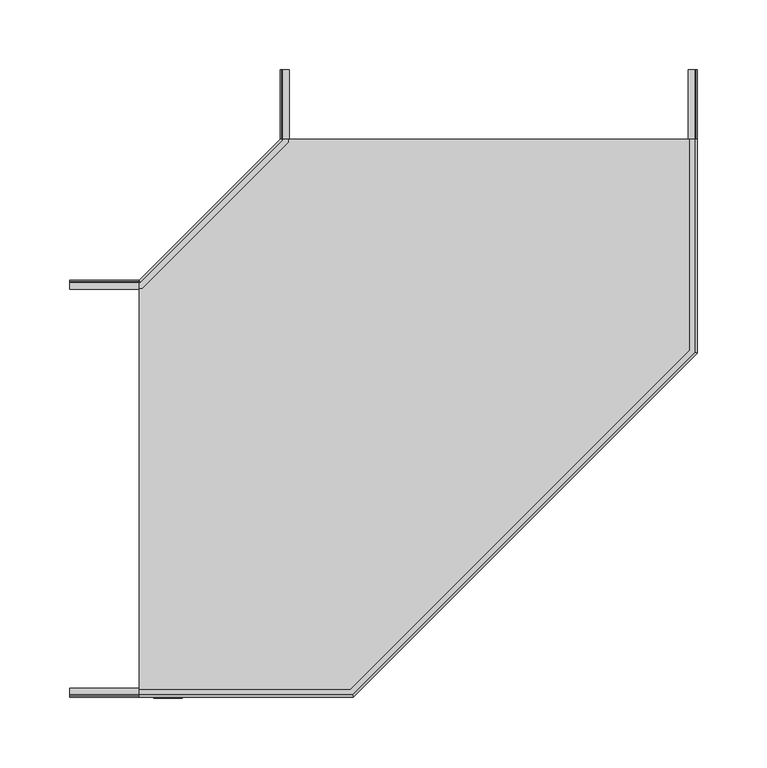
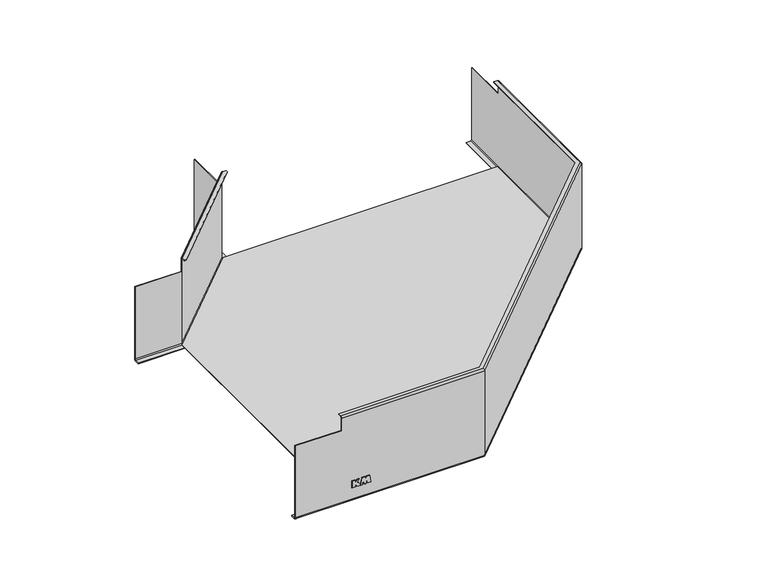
"""IFC4 building model written with IfcOpenShell, lengths in millimetres: cable carrier fitting geometry, КМ Профиль Угол горизонтальный GL90 : Угол горизонтальный GL90."""

import ifcopenshell
import ifcopenshell.guid

model = None  # the IFC model being written
_history = None  # IfcOwnerHistory: only IFC2X3 demands one
_inside = {}  # id of a spatial element -> (the spatial element, [elements in it])
_under = {}  # id of a project, library or spatial element -> (it, [spatial elements below it])
_declared = {}  # id of a project -> (the project, [libraries it declares])
_typed = {}  # id of a type object -> (the type object, [elements of that type])
_made_of = {}  # id of a material, layer set ... -> (it, [elements and type objects made of it])


def new_model(schema):
    """Start an empty IFC model of exactly this schema.

    Asked for "IFC4X3", IfcOpenShell would pick the latest addendum, in which some entities
    have other attributes; the version numbers below select the first issue.
    IFC2X3 requires an IfcOwnerHistory on every rooted entity: one is made here for all.
    """
    global model, _history
    if schema == "IFC4X3":
        model = ifcopenshell.file(schema_version=(4, 3, 0, 0))
    else:
        model = ifcopenshell.file(schema=schema)
    _inside.clear()
    _under.clear()
    _declared.clear()
    _typed.clear()
    _made_of.clear()
    _history = None
    if model.schema == "IFC2X3":
        org = make("IfcOrganization", Name="unknown")
        user = make(
            "IfcPersonAndOrganization",
            ThePerson=make("IfcPerson", FamilyName="unknown"),
            TheOrganization=org,
        )
        app = make(
            "IfcApplication",
            ApplicationDeveloper=org,
            Version="unknown",
            ApplicationFullName="unknown",
            ApplicationIdentifier="unknown",
        )
        _history = make(
            "IfcOwnerHistory",
            OwningUser=user,
            OwningApplication=app,
            ChangeAction="ADDED",
            CreationDate=0,
        )
    return model


def make(cls, **values):
    """One entity of the class cls with the attributes given. An attribute that is None is left unset."""
    return model.create_entity(
        cls, **{name: value for name, value in values.items() if value is not None}
    )


def rooted(cls, **values):
    """An entity with a GlobalId (a new one), such as an element, a storey or a relation."""
    return make(cls, GlobalId=ifcopenshell.guid.new(), OwnerHistory=_history, **values)


def si_unit(unit_type, name, prefix=None):
    """IfcSIUnit, for example si_unit("LENGTHUNIT", "METRE", prefix="MILLI")."""
    return make("IfcSIUnit", UnitType=unit_type, Prefix=prefix, Name=name)


def assignment(units):
    """IfcUnitAssignment: the units of a project."""
    return None if units is None else make("IfcUnitAssignment", Units=units)


def point(xyz):
    """IfcCartesianPoint."""
    return None if xyz is None else make("IfcCartesianPoint", Coordinates=xyz)


def direction(xyz):
    """IfcDirection."""
    return None if xyz is None else make("IfcDirection", DirectionRatios=xyz)


def frame(location, z_axis=None, x_axis=None):
    """IfcAxis2Placement3D, a coordinate frame: its origin and axes. An axis left out is left unset."""
    return make(
        "IfcAxis2Placement3D",
        Location=point(location),
        Axis=direction(z_axis),
        RefDirection=direction(x_axis),
    )


def origin():
    """The frame at (0, 0, 0) with its axes left unset."""
    return frame((0.0, 0.0, 0.0))


def place(relative_to, where):
    """IfcLocalPlacement: puts the frame where relative to a parent placement (None: the world)."""
    return make(
        "IfcLocalPlacement", PlacementRelTo=relative_to, RelativePlacement=where
    )


def context(
    kind, dimensions, precision=None, world=None, true_north=None, identifier=None
):
    """IfcGeometricRepresentationContext, for example the 3D "Model" context."""
    return make(
        "IfcGeometricRepresentationContext",
        ContextIdentifier=identifier,
        ContextType=kind,
        CoordinateSpaceDimension=dimensions,
        Precision=precision,
        WorldCoordinateSystem=world,
        TrueNorth=true_north,
    )


def project(units=None, contexts=None):
    """IfcProject with its units and contexts."""
    return rooted(
        "IfcProject",
        Name="project",
        RepresentationContexts=contexts,
        UnitsInContext=assignment(units),
    )


def spatial(cls, under=None, at=None, **own):
    """A site, building, storey or space (cls), placed at a placement, below another one or the project."""
    s = rooted(cls, ObjectPlacement=at, **own)
    if under is not None:
        _under.setdefault(under.id(), (under, []))[1].append(s)
    return s


def polyline(points):
    """IfcPolyline through the points."""
    return make("IfcPolyline", Points=[point(p) for p in points])


def circle_curve(where, radius):
    """IfcCircle in the frame where."""
    return make("IfcCircle", Position=where, Radius=radius)


def ellipse_curve(where, semi_axis1, semi_axis2):
    """IfcEllipse in the frame where."""
    return make(
        "IfcEllipse", Position=where, SemiAxis1=semi_axis1, SemiAxis2=semi_axis2
    )


def outline(outer, holes=None, kind="AREA"):
    """IfcArbitraryClosedProfileDef: a profile drawn as a closed curve; with holes, ...WithVoids."""
    if holes is None:
        return make("IfcArbitraryClosedProfileDef", ProfileType=kind, OuterCurve=outer)
    return make(
        "IfcArbitraryProfileDefWithVoids",
        ProfileType=kind,
        OuterCurve=outer,
        InnerCurves=holes,
    )


def extrude(swept, where, along, depth):
    """IfcExtrudedAreaSolid: the profile swept, set in the frame where, extruded along a direction by depth."""
    return make(
        "IfcExtrudedAreaSolid",
        SweptArea=swept,
        Position=where,
        ExtrudedDirection=direction(along),
        Depth=depth,
    )


def shape(context_of_items, identifier, shape_type, items):
    """IfcShapeRepresentation: the items that make up one representation, for example the "Body"."""
    return make(
        "IfcShapeRepresentation",
        ContextOfItems=context_of_items,
        RepresentationIdentifier=identifier,
        RepresentationType=shape_type,
        Items=items,
    )


def source(mapping_origin, context_of_items, identifier, shape_type, items):
    """IfcRepresentationMap: a shape defined once, which mapped items show again and again."""
    return make(
        "IfcRepresentationMap",
        MappingOrigin=mapping_origin,
        MappedRepresentation=shape(context_of_items, identifier, shape_type, items),
    )


def transform(
    local_origin,
    x_axis=None,
    y_axis=None,
    z_axis=None,
    scale=None,
    scale2=None,
    scale3=None,
    uniform=True,
):
    """IfcCartesianTransformationOperator3D, or its non-uniform kind. x_axis, y_axis, z_axis: its Axis1, 2, 3."""
    if uniform:
        return make(
            "IfcCartesianTransformationOperator3D",
            Axis1=direction(x_axis),
            Axis2=direction(y_axis),
            LocalOrigin=point(local_origin),
            Scale=scale,
            Axis3=direction(z_axis),
        )
    return make(
        "IfcCartesianTransformationOperator3DnonUniform",
        Axis1=direction(x_axis),
        Axis2=direction(y_axis),
        LocalOrigin=point(local_origin),
        Scale=scale,
        Axis3=direction(z_axis),
        Scale2=scale2,
        Scale3=scale3,
    )


def mapped(mapping_source, mapping_target):
    """IfcMappedItem: shows the shape of a source again, moved by a transform."""
    return make(
        "IfcMappedItem", MappingSource=mapping_source, MappingTarget=mapping_target
    )


def made_of(thing, what):
    """Note that an element or type object is made of a material, layer set ...; save() writes the relation."""
    if what is not None:
        _made_of.setdefault(what.id(), (what, []))[1].append(thing)
    return thing


def element(
    cls,
    number,
    at=None,
    inside=None,
    cuts=None,
    type_object=None,
    material=None,
    context=None,
    identifier="Body",
    shape_type=None,
    held_by="IfcProductDefinitionShape",
    body=None,
    shapes=None,
    **own,
):
    """One element of the class cls, such as IfcWall. Its Tag is "e" and its number.

    at: its placement. inside: the storey or other place that contains it. cuts: it is an
    opening in that element (IfcRelVoidsElement). A single representation is given by context,
    identifier, shape_type and body (its items); several are given by shapes. held_by: the class
    of the entity that holds the representations. save() writes the other relations.
    """
    e = rooted(cls, Tag="e%d" % number, ObjectPlacement=at, **own)
    if body is not None:
        shapes = [shape(context, identifier, shape_type, body)]
    if shapes is not None:
        e.Representation = make(held_by, Representations=shapes)
    if inside is not None:
        _inside.setdefault(inside.id(), (inside, []))[1].append(e)
    if cuts is not None:
        rooted(
            "IfcRelVoidsElement", RelatingBuildingElement=cuts, RelatedOpeningElement=e
        )
    if type_object is not None:
        _typed.setdefault(type_object.id(), (type_object, []))[1].append(e)
    return made_of(e, material)


def aggregate(whole, parts):
    """IfcRelAggregates: a whole, such as a stair, and the parts it consists of."""
    return rooted("IfcRelAggregates", RelatingObject=whole, RelatedObjects=parts)


def save(model, path):
    """Write the relations noted so far, then the file.

    IfcRelAggregates (storeys below a building ...), IfcRelContainedInSpatialStructure (elements
    in a storey), IfcRelDefinesByType, IfcRelAssociatesMaterial and IfcRelDeclares: one each for
    every whole, place, type object, material and project.
    """
    for whole, parts in _under.values():
        aggregate(whole, parts)
    for where, things in _inside.values():
        rooted(
            "IfcRelContainedInSpatialStructure",
            RelatedElements=things,
            RelatingStructure=where,
        )
    for kind, things in _typed.values():
        rooted("IfcRelDefinesByType", RelatedObjects=things, RelatingType=kind)
    for what, things in _made_of.values():
        rooted("IfcRelAssociatesMaterial", RelatedObjects=things, RelatingMaterial=what)
    for by, libraries in _declared.values():
        rooted("IfcRelDeclares", RelatingContext=by, RelatedDefinitions=libraries)
    model.write(path)


def plane_surface(at):
    """IfcPlane: the flat surface through the origin of the frame at, square to its z axis."""
    return make("IfcPlane", Position=at)


def cylinder_surface(at, radius):
    """IfcCylindricalSurface: all points at the distance radius from the z axis of the frame at."""
    return make("IfcCylindricalSurface", Position=at, Radius=radius)


def revolved_surface(curve, axis_point, axis_direction):
    """IfcSurfaceOfRevolution: the curve turned about the line through axis_point along axis_direction."""
    return make(
        "IfcSurfaceOfRevolution",
        SweptCurve=make("IfcArbitraryOpenProfileDef", ProfileType="CURVE", Curve=curve),
        AxisPosition=make("IfcAxis1Placement", Location=point(axis_point), Axis=direction(axis_direction)),
    )


def advanced_brep(points, edges, surfaces, faces):
    """IfcAdvancedBrep: a solid bounded by faces that lie on surfaces and meet in shared edges.

    An edge is (start, end): straight between two places in points (the first is 0);
    or (start, end, curve); or (start, end, curve, False) where it runs against its curve.
    A face is (place in surfaces, loops), or (place, loops, False) where it looks against
    its surface's normal. A loop lists edges by number (the first is 1), with a minus sign
    where the edge is run from its end to its start. The first loop is the outer one.
    """
    corners = [point(p) for p in points]
    vertices = [make("IfcVertexPoint", VertexGeometry=c) for c in corners]
    made = []
    for start, end, *more in edges:
        made.append(
            make(
                "IfcEdgeCurve",
                EdgeStart=vertices[start],
                EdgeEnd=vertices[end],
                EdgeGeometry=more[0] if more else make("IfcPolyline", Points=[corners[start], corners[end]]),
                SameSense=more[1] if len(more) > 1 else True,
            )
        )
    hull = []
    for where, loops, *sense in faces:
        bounds = []
        for j, loop in enumerate(loops):
            ring = [make("IfcOrientedEdge", EdgeElement=made[abs(k) - 1], Orientation=k > 0) for k in loop]
            bounds.append(
                make(
                    "IfcFaceOuterBound" if j == 0 else "IfcFaceBound",
                    Bound=make("IfcEdgeLoop", EdgeList=ring),
                    Orientation=True,
                )
            )
        hull.append(make("IfcAdvancedFace", Bounds=bounds, FaceSurface=surfaces[where], SameSense=sense[0] if sense else True))
    return make("IfcAdvancedBrep", Outer=make("IfcClosedShell", CfsFaces=hull))


def cable_carrier_fitting_7e0096a5(model_context):
    return source(origin(), model_context, "Body", "SolidModel", [
        extrude(outline(polyline([(-26.986157, -240.9388781), (-34.737421, -240.9388781), (-34.737421, -237.3630512), (-31.5720802, -237.3630512), (-34.737421, -235.6588467), (-34.737421, -231.7604353), (-31.194034, -233.6277444), (-30.5086619, -235.8694955), (-26.986157, -233.403011), (-26.986157, -235.5289757), (-30.564509, -237.4316192), (-26.986157, -237.4316192), (-26.986157, -240.9388781)])), frame((0.0, -150.8, 0.0), z_axis=(0.0, 1.0, 0.0), x_axis=(0.0, 0.0, 1.0)), (0.0, 0.0, 1.0), 0.8),
        extrude(outline(polyline([(-34.737421, -229.6962759), (-30.0696135, -229.3126012), (-34.7434681, -227.9045824), (-34.7434681, -226.4300717), (-30.0541919, -224.9500032), (-34.7429915, -224.4725105), (-34.7429915, -220.5700699), (-26.9623682, -221.7615674), (-26.9623682, -224.9555223), (-30.0390232, -225.9768297), (-26.9647569, -226.7433304), (-26.9647569, -229.7740589), (-34.737421, -231.5943395), (-34.737421, -229.6962759)])), frame((0.0, -150.8, 0.0), z_axis=(0.0, 1.0, 0.0), x_axis=(0.0, 0.0, 1.0)), (0.0, 0.0, 1.0), 0.8),
        extrude(outline(polyline([(-251.7, -147.4), (-251.7, 147.4), (-147.4, 251.7), (148.2, 251.7), (148.2, 98.2873734), (-97.4873734, -147.4), (-251.7, -147.4)])), frame((0.0, 0.0, -49.2), z_axis=(0.0, 0.0, 1.0), x_axis=(1.0, 0.0, 0.0)), (0.0, 0.0, 1.0), 0.8),
        advanced_brep(
        [(-301.7, -149.2, -48.2), (-301.7, -148.2, -49.2), (-301.7, -143.5, -49.2), (-301.7, -143.5, -50.0), (-301.7, -148.2, -50.0), (-301.7, -150.0, -48.2), (-301.7, -150.0, 34.0), (-301.7, -149.2, 34.0), (-97.8187443, -149.2, 48.2), (-97.8187443, -149.2, -48.2), (-251.7, -149.2, 34.0), (-251.7, -149.2, 48.2), (-98.2329578, -148.2, -49.2), (148.2, 98.2329578, -49.2), (148.2, 301.7, -49.2), (143.5, 301.7, -49.2), (143.5, 100.1797616, -49.2), (-100.1797616, -143.5, -49.2), (-100.1797616, -143.5, -50.0), (143.5, 100.1797616, -50.0), (143.5, 301.7, -50.0), (148.2, 301.7, -50.0), (148.2, 98.2329578, -50.0), (-98.2329578, -148.2, -50.0), (-97.4873734, -150.0, -48.2), (-97.4873734, -150.0, 48.2), (-251.7, -150.0, 48.2), (-251.7, -150.0, 34.0), (-98.2329578, -148.2, 50.0), (-251.7, -148.2, 50.0), (148.2, 98.2329578, 50.0), (148.2, 251.7, 50.0), (144.5, 251.7, 50.0), (144.5, 99.765548, 50.0), (-99.765548, -144.5, 50.0), (-251.7, -144.5, 50.0), (-99.765548, -144.5, 49.2), (-251.7, -144.5, 49.2), (144.5, 99.765548, 49.2), (144.5, 251.7, 49.2), (148.2, 251.7, 49.2), (148.2, 98.2329578, 49.2), (-98.2329578, -148.2, 49.2), (-251.7, -148.2, 49.2), (149.2, 97.8187443, 48.2), (149.2, 97.8187443, -48.2), (150.0, 97.4873734, -48.2), (150.0, 97.4873734, 48.2), (149.2, 301.7, -48.2), (149.2, 301.7, 34.0), (150.0, 301.7, 34.0), (150.0, 301.7, -48.2), (149.2, 251.7, 48.2), (149.2, 251.7, 34.0), (150.0, 251.7, 34.0), (150.0, 251.7, 48.2)],
        [
            (0, 1, circle_curve(frame((-301.7, -148.2, -48.2), z_axis=(1.0, 0.0, 0.0), x_axis=(0.0, 1.0, 0.0)), 1.0)),
            (1, 2),
            (2, 3),
            (3, 4),
            (4, 5, circle_curve(frame((-301.7, -148.2, -48.2), z_axis=(-1.0, 0.0, 0.0), x_axis=(0.0, 1.0, 0.0)), 1.8)),
            (5, 6),
            (6, 7),
            (7, 0),
            (8, 9),
            (9, 0),
            (7, 10),
            (10, 11),
            (11, 8),
            (9, 12, ellipse_curve(frame((-98.2329578, -148.2, -48.2), z_axis=(0.92387953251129, 0.3826834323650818, 0.0), x_axis=(0.3826834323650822, -0.9238795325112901, 0.0)), 1.0823922, 1.0)),
            (12, 1),
            (12, 13),
            (13, 14),
            (14, 15),
            (15, 16),
            (16, 17),
            (17, 2),
            (17, 18),
            (18, 3),
            (18, 19),
            (19, 20),
            (20, 21),
            (21, 22),
            (22, 23),
            (23, 4),
            (23, 24, ellipse_curve(frame((-98.2329578, -148.2, -48.2), z_axis=(-0.92387953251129, -0.3826834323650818, 0.0), x_axis=(-0.3826834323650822, 0.9238795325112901, 0.0)), 1.948306, 1.8)),
            (24, 5),
            (24, 25),
            (25, 26),
            (26, 27),
            (27, 6),
            (25, 28, ellipse_curve(frame((-98.2329578, -148.2, 48.2), z_axis=(-0.92387953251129, -0.3826834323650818, 0.0), x_axis=(-0.3826834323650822, 0.9238795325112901, 0.0)), 1.948306, 1.8)),
            (28, 29),
            (29, 26, circle_curve(frame((-251.7, -148.2, 48.2), z_axis=(1.0, 0.0, 0.0), x_axis=(0.0, 1.0, 0.0)), 1.8)),
            (28, 30),
            (30, 31),
            (31, 32),
            (32, 33),
            (33, 34),
            (34, 35),
            (35, 29),
            (34, 36),
            (36, 37),
            (37, 35),
            (36, 38),
            (38, 39),
            (39, 40),
            (40, 41),
            (41, 42),
            (42, 43),
            (43, 37),
            (42, 8, ellipse_curve(frame((-98.2329578, -148.2, 48.2), z_axis=(0.92387953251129, 0.3826834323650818, 0.0), x_axis=(0.3826834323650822, -0.9238795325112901, 0.0)), 1.0823922, 1.0)),
            (11, 43, circle_curve(frame((-251.7, -148.2, 48.2), z_axis=(-1.0, 0.0, 0.0), x_axis=(0.0, 1.0, 0.0)), 1.0)),
            (8, 44),
            (44, 45),
            (45, 9),
            (45, 13, ellipse_curve(frame((148.2, 98.2329578, -48.2), z_axis=(0.3826834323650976, 0.9238795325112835, 0.0), x_axis=(0.9238795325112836, -0.38268343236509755, 0.0)), 1.0823922, 1.0)),
            (16, 19),
            (22, 46, ellipse_curve(frame((148.2, 98.2329578, -48.2), z_axis=(-0.3826834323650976, -0.9238795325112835, 0.0), x_axis=(-0.9238795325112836, 0.38268343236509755, 0.0)), 1.948306, 1.8)),
            (46, 24),
            (46, 47),
            (47, 25),
            (47, 30, ellipse_curve(frame((148.2, 98.2329578, 48.2), z_axis=(-0.3826834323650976, -0.9238795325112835, 0.0), x_axis=(-0.9238795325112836, 0.38268343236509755, 0.0)), 1.948306, 1.8)),
            (33, 38),
            (41, 44, ellipse_curve(frame((148.2, 98.2329578, 48.2), z_axis=(0.3826834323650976, 0.9238795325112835, 0.0), x_axis=(0.9238795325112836, -0.38268343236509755, 0.0)), 1.0823922, 1.0)),
            (14, 48, circle_curve(frame((148.2, 301.7, -48.2), z_axis=(0.0, -1.0, 0.0), x_axis=(-1.0, 0.0, 0.0)), 1.0)),
            (48, 49),
            (49, 50),
            (50, 51),
            (51, 21, circle_curve(frame((148.2, 301.7, -48.2), z_axis=(0.0, 1.0, 0.0), x_axis=(-1.0, 0.0, 0.0)), 1.8)),
            (20, 15),
            (44, 52),
            (52, 53),
            (53, 49),
            (48, 45),
            (51, 46),
            (50, 54),
            (54, 55),
            (55, 47),
            (55, 31, circle_curve(frame((148.2, 251.7, 48.2), z_axis=(0.0, -1.0, 0.0), x_axis=(-1.0, 0.0, 0.0)), 1.8)),
            (32, 39),
            (40, 52, circle_curve(frame((148.2, 251.7, 48.2), z_axis=(0.0, 1.0, 0.0), x_axis=(-1.0, 0.0, 0.0)), 1.0)),
            (27, 10),
            (53, 54),
        ],
        [
            plane_surface(frame((-301.7, -150.0, 0.0), z_axis=(-1.0, 0.0, 0.0), x_axis=(0.0, 0.0, 1.0))),
            plane_surface(frame((-301.7, -149.2, 48.2), z_axis=(0.0, 1.0, 0.0), x_axis=(1.0, 0.0, 0.0))),
            revolved_surface(polyline([(-97.81874423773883, -147.2, -48.2), (-301.7, -147.2, -48.2)]), (-301.7, -148.2, -48.2), (1.0, 0.0, 0.0)),
            plane_surface(frame((-301.7, -148.2, -49.2), z_axis=(0.0, 0.0, 1.0), x_axis=(1.0, 0.0, 0.0))),
            plane_surface(frame((-301.7, -143.5, -49.2), z_axis=(0.0, 1.0, 0.0), x_axis=(1.0, 0.0, 0.0))),
            plane_surface(frame((-301.7, -143.5, -50.0), z_axis=(0.0, 0.0, -1.0), x_axis=(1.0, 0.0, 0.0))),
            cylinder_surface(frame((-301.7, -148.2, -48.2), z_axis=(-1.0, 0.0, 0.0), x_axis=(0.0, 1.0, 0.0)), 1.8),
            plane_surface(frame((-301.7, -150.0, -48.2), z_axis=(0.0, -1.0, 0.0), x_axis=(1.0, 0.0, 0.0))),
            cylinder_surface(frame((-301.7, -148.2, 48.2), z_axis=(-1.0, 0.0, 0.0), x_axis=(0.0, 1.0, 0.0)), 1.8),
            plane_surface(frame((-301.7, -148.2, 50.0), z_axis=(0.0, 0.0, 1.0), x_axis=(1.0, 0.0, 0.0))),
            plane_surface(frame((-301.7, -144.5, 50.0), z_axis=(0.0, 1.0, 0.0), x_axis=(1.0, 0.0, 0.0))),
            plane_surface(frame((-301.7, -144.5, 49.2), z_axis=(0.0, 0.0, -1.0), x_axis=(1.0, 0.0, 0.0))),
            revolved_surface(polyline([(-97.81874423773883, -147.2, 48.2), (-251.7, -147.2, 48.2)]), (-301.7, -148.2, 48.2), (1.0, 0.0, 0.0)),
            plane_surface(frame((-97.8187443, -149.2, 48.2), z_axis=(-0.7071067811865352, 0.7071067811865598, 0.0), x_axis=(0.7071067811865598, 0.7071067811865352, 0.0))),
            revolved_surface(polyline([(147.78578646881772, 99.23295783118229, -48.2), (-99.23295783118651, -147.78578646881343, -48.2)]), (-98.7601656, -148.7272078, -48.2), (0.7071067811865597, 0.7071067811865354, 0.0)),
            plane_surface(frame((-100.1797616, -143.5, -49.2), z_axis=(-0.7071067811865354, 0.7071067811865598, 0.0), x_axis=(0.7071067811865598, 0.7071067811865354, 0.0))),
            cylinder_surface(frame((-98.7601656, -148.7272078, -48.2), z_axis=(-0.7071067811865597, -0.7071067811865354, 0.0), x_axis=(-0.7071067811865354, 0.7071067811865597, 0.0)), 1.8),
            plane_surface(frame((-97.4873734, -150.0, -48.2), z_axis=(0.7071067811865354, -0.7071067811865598, 0.0), x_axis=(0.7071067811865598, 0.7071067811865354, 0.0))),
            cylinder_surface(frame((-98.7601656, -148.7272078, 48.2), z_axis=(-0.7071067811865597, -0.7071067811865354, 0.0), x_axis=(-0.7071067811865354, 0.7071067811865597, 0.0)), 1.8),
            plane_surface(frame((-99.765548, -144.5, 50.0), z_axis=(-0.7071067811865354, 0.7071067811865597, 0.0), x_axis=(0.7071067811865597, 0.7071067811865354, 0.0))),
            revolved_surface(polyline([(147.78578646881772, 99.23295783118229, 48.2), (-99.23295783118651, -147.78578646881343, 48.2)]), (-98.7601656, -148.7272078, 48.2), (0.7071067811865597, 0.7071067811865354, 0.0)),
            plane_surface(frame((150.0, 301.7, 0.0), z_axis=(0.0, 1.0, 0.0), x_axis=(0.0, 0.0, 1.0))),
            plane_surface(frame((149.2, 97.8187443, 48.2), z_axis=(-1.0, 0.0, 0.0), x_axis=(0.0, 1.0, 0.0))),
            revolved_surface(polyline([(147.2, 301.7, -48.2), (147.2, 97.81874423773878, -48.2)]), (148.2, 97.4873734, -48.2), (0.0, 1.0, 0.0)),
            plane_surface(frame((143.5, 100.1797616, -49.2), z_axis=(-1.0, 0.0, 0.0), x_axis=(0.0, 1.0, 0.0))),
            cylinder_surface(frame((148.2, 97.4873734, -48.2), z_axis=(0.0, -1.0, 0.0), x_axis=(-1.0, 0.0, 0.0)), 1.8),
            plane_surface(frame((150.0, 97.4873734, -48.2), z_axis=(1.0, 0.0, 0.0), x_axis=(0.0, 1.0, 0.0))),
            cylinder_surface(frame((148.2, 97.4873734, 48.2), z_axis=(0.0, -1.0, 0.0), x_axis=(-1.0, 0.0, 0.0)), 1.8),
            plane_surface(frame((144.5, 99.765548, 50.0), z_axis=(-1.0, 0.0, 0.0), x_axis=(0.0, 1.0, 0.0))),
            revolved_surface(polyline([(147.2, 251.7, 48.2), (147.2, 97.81874423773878, 48.2)]), (148.2, 97.4873734, 48.2), (0.0, 1.0, 0.0)),
            plane_surface(frame((-301.7, -150.0, 34.0), z_axis=(0.0, 0.0, 1.0), x_axis=(-1.0, 0.0, 0.0))),
            plane_surface(frame((-251.7, -150.0, 50.0), z_axis=(-1.0, 0.0, 0.0), x_axis=(0.0, 0.0, -1.0))),
            plane_surface(frame((-150.0, 251.7, 50.0), z_axis=(0.0, 1.0, 0.0), x_axis=(0.0, 0.0, -1.0))),
        ],
        [
            (0, [[1, 2, 3, 4, 5, 6, 7, 8]]),
            (1, [[9, 10, -8, 11, 12, 13]]),
            (2, [[-1, -10, 14, 15]]),
            (3, [[-2, -15, 16, 17, 18, 19, 20, 21]]),
            (4, [[-3, -21, 22, 23]]),
            (5, [[-4, -23, 24, 25, 26, 27, 28, 29]]),
            (6, [[-5, -29, 30, 31]]),
            (7, [[-31, 32, 33, 34, 35, -6]]),
            (8, [[36, 37, 38, -33]]),
            (9, [[39, 40, 41, 42, 43, 44, 45, -37]]),
            (10, [[46, 47, 48, -44]]),
            (11, [[49, 50, 51, 52, 53, 54, 55, -47]]),
            (12, [[56, -13, 57, -54]]),
            (13, [[-9, 58, 59, 60]]),
            (14, [[-14, -60, 61, -16]]),
            (15, [[-20, 62, -24, -22]]),
            (16, [[-28, 63, 64, -30]]),
            (17, [[-32, -64, 65, 66]]),
            (18, [[-36, -66, 67, -39]]),
            (19, [[-43, 68, -49, -46]]),
            (20, [[-53, 69, -58, -56]]),
            (21, [[-18, 70, 71, 72, 73, 74, -26, 75]]),
            (22, [[-59, 76, 77, 78, -71, 79]]),
            (23, [[-17, -61, -79, -70]]),
            (24, [[-19, -75, -25, -62]]),
            (25, [[-27, -74, 80, -63]]),
            (26, [[-65, -80, -73, 81, 82, 83]]),
            (27, [[-67, -83, 84, -40]]),
            (28, [[-68, -42, 85, -50]]),
            (29, [[-69, -52, 86, -76]]),
            (30, [[87, -11, -7, -35]]),
            (30, [[88, -81, -72, -78]]),
            (31, [[-87, -34, -38, -45, -48, -55, -57, -12]]),
            (32, [[-88, -77, -86, -51, -85, -41, -84, -82]]),
        ],
    ),
        advanced_brep(
        [(-301.7, 143.5, -49.2), (-301.7, 148.2, -49.2), (-301.7, 149.2, -48.2), (-301.7, 149.2, 34.0), (-301.7, 150.0, 34.0), (-301.7, 150.0, -48.2), (-301.7, 148.2, -50.0), (-301.7, 143.5, -50.0), (-249.0076118, 143.5, -49.2), (-143.5, 249.0076118, -49.2), (-143.5, 301.7, -49.2), (-148.2, 301.7, -49.2), (-148.2, 250.9544156, -49.2), (-250.9544156, 148.2, -49.2), (-251.3686292, 149.2, -48.2), (-251.3686292, 149.2, 48.2), (-251.7, 149.2, 48.2), (-251.7, 149.2, 34.0), (-250.9544156, 148.2, 49.2), (-251.7, 148.2, 49.2), (-148.2, 250.9544156, 49.2), (-148.2, 251.7, 49.2), (-144.5, 251.7, 49.2), (-144.5, 249.4218254, 49.2), (-249.4218254, 144.5, 49.2), (-251.7, 144.5, 49.2), (-249.4218254, 144.5, 50.0), (-251.7, 144.5, 50.0), (-144.5, 249.4218254, 50.0), (-144.5, 251.7, 50.0), (-148.2, 251.7, 50.0), (-148.2, 250.9544156, 50.0), (-250.9544156, 148.2, 50.0), (-251.7, 148.2, 50.0), (-251.7, 150.0, 48.2), (-251.7, 150.0, -48.2), (-251.7, 150.0, 34.0), (-250.9544156, 148.2, -50.0), (-148.2, 250.9544156, -50.0), (-148.2, 301.7, -50.0), (-143.5, 301.7, -50.0), (-143.5, 249.0076118, -50.0), (-249.0076118, 143.5, -50.0), (-149.2, 251.3686292, -48.2), (-149.2, 251.3686292, 48.2), (-150.0, 251.7, 48.2), (-150.0, 251.7, 34.0), (-150.0, 251.7, -48.2), (-150.0, 301.7, -48.2), (-150.0, 301.7, 34.0), (-149.2, 301.7, 34.0), (-149.2, 301.7, -48.2), (-149.2, 251.7, 34.0), (-149.2, 251.7, 48.2)],
        [
            (0, 1),
            (1, 2, circle_curve(frame((-301.7, 148.2, -48.2), z_axis=(1.0, 0.0, 0.0), x_axis=(0.0, 1.0, 0.0)), 1.0)),
            (2, 3),
            (3, 4),
            (4, 5),
            (5, 6, circle_curve(frame((-301.7, 148.2, -48.2), z_axis=(-1.0, 0.0, 0.0), x_axis=(0.0, 1.0, 0.0)), 1.8)),
            (6, 7),
            (7, 0),
            (0, 8),
            (8, 9),
            (9, 10),
            (10, 11),
            (11, 12),
            (12, 13),
            (13, 1),
            (13, 14, ellipse_curve(frame((-250.9544156, 148.2, -48.2), z_axis=(0.9238795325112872, 0.3826834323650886, 0.0), x_axis=(0.38268343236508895, -0.9238795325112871, 0.0)), 1.0823922, 1.0)),
            (14, 2),
            (14, 15),
            (15, 16),
            (16, 17),
            (17, 3),
            (15, 18, ellipse_curve(frame((-250.9544156, 148.2, 48.2), z_axis=(0.9238795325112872, 0.3826834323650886, 0.0), x_axis=(0.38268343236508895, -0.9238795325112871, 0.0)), 1.0823922, 1.0)),
            (18, 19),
            (19, 16, circle_curve(frame((-251.7, 148.2, 48.2), z_axis=(-1.0, 0.0, 0.0), x_axis=(0.0, 1.0, 0.0)), 1.0)),
            (18, 20),
            (20, 21),
            (21, 22),
            (22, 23),
            (23, 24),
            (24, 25),
            (25, 19),
            (24, 26),
            (26, 27),
            (27, 25),
            (26, 28),
            (28, 29),
            (29, 30),
            (30, 31),
            (31, 32),
            (32, 33),
            (33, 27),
            (32, 34, ellipse_curve(frame((-250.9544156, 148.2, 48.2), z_axis=(-0.9238795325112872, -0.3826834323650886, 0.0), x_axis=(-0.38268343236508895, 0.9238795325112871, 0.0)), 1.948306, 1.8)),
            (34, 33, circle_curve(frame((-251.7, 148.2, 48.2), z_axis=(1.0, 0.0, 0.0), x_axis=(0.0, 1.0, 0.0)), 1.8)),
            (35, 5),
            (4, 36),
            (36, 35),
            (35, 37, ellipse_curve(frame((-250.9544156, 148.2, -48.2), z_axis=(-0.9238795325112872, -0.3826834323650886, 0.0), x_axis=(-0.38268343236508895, 0.9238795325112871, 0.0)), 1.948306, 1.8)),
            (37, 6),
            (37, 38),
            (38, 39),
            (39, 40),
            (40, 41),
            (41, 42),
            (42, 7),
            (42, 8),
            (12, 43, ellipse_curve(frame((-148.2, 250.9544156, -48.2), z_axis=(0.382683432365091, 0.9238795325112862, 0.0), x_axis=(0.9238795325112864, -0.3826834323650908, 0.0)), 1.0823922, 1.0)),
            (43, 14),
            (43, 44),
            (44, 15),
            (44, 20, ellipse_curve(frame((-148.2, 250.9544156, 48.2), z_axis=(0.382683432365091, 0.9238795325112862, 0.0), x_axis=(0.9238795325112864, -0.3826834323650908, 0.0)), 1.0823922, 1.0)),
            (23, 28),
            (31, 45, ellipse_curve(frame((-148.2, 250.9544156, 48.2), z_axis=(-0.382683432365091, -0.9238795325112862, 0.0), x_axis=(-0.9238795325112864, 0.3826834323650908, 0.0)), 1.948306, 1.8)),
            (45, 34),
            (45, 46),
            (46, 47),
            (47, 35),
            (36, 34),
            (47, 38, ellipse_curve(frame((-148.2, 250.9544156, -48.2), z_axis=(-0.382683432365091, -0.9238795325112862, 0.0), x_axis=(-0.9238795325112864, 0.3826834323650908, 0.0)), 1.948306, 1.8)),
            (41, 9),
            (10, 40),
            (39, 48, circle_curve(frame((-148.2, 301.7, -48.2), z_axis=(0.0, 1.0, 0.0), x_axis=(-1.0, 0.0, 0.0)), 1.8)),
            (48, 49),
            (49, 50),
            (50, 51),
            (51, 11, circle_curve(frame((-148.2, 301.7, -48.2), z_axis=(0.0, -1.0, 0.0), x_axis=(-1.0, 0.0, 0.0)), 1.0)),
            (51, 43),
            (50, 52),
            (52, 53),
            (53, 44),
            (53, 21, circle_curve(frame((-148.2, 251.7, 48.2), z_axis=(0.0, 1.0, 0.0), x_axis=(-1.0, 0.0, 0.0)), 1.0)),
            (22, 29),
            (30, 45, circle_curve(frame((-148.2, 251.7, 48.2), z_axis=(0.0, -1.0, 0.0), x_axis=(-1.0, 0.0, 0.0)), 1.8)),
            (48, 47),
            (46, 49),
            (17, 36),
            (46, 52),
        ],
        [
            plane_surface(frame((-301.7, 150.0, 0.0), z_axis=(-1.0, 0.0, 0.0), x_axis=(0.0, 0.0, 1.0))),
            plane_surface(frame((-301.7, 143.5, -49.2), z_axis=(0.0, 0.0, 1.0), x_axis=(1.0, 0.0, 0.0))),
            revolved_surface(polyline([(-250.5402020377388, 149.2, -48.2), (-301.7, 149.2, -48.2)]), (-301.7, 148.2, -48.2), (1.0, 0.0, 0.0)),
            plane_surface(frame((-301.7, 149.2, -48.2), z_axis=(0.0, -1.0, 0.0), x_axis=(1.0, 0.0, 0.0))),
            revolved_surface(polyline([(-250.5402020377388, 149.2, 48.2), (-251.7, 149.2, 48.2)]), (-301.7, 148.2, 48.2), (1.0, 0.0, 0.0)),
            plane_surface(frame((-301.7, 148.2, 49.2), z_axis=(0.0, 0.0, -1.0), x_axis=(1.0, 0.0, 0.0))),
            plane_surface(frame((-301.7, 144.5, 49.2), z_axis=(0.0, -1.0, 0.0), x_axis=(1.0, 0.0, 0.0))),
            plane_surface(frame((-301.7, 144.5, 50.0), z_axis=(0.0, 0.0, 1.0), x_axis=(1.0, 0.0, 0.0))),
            cylinder_surface(frame((-301.7, 148.2, 48.2), z_axis=(-1.0, 0.0, 0.0), x_axis=(0.0, 1.0, 0.0)), 1.8),
            plane_surface(frame((-301.7, 150.0, 48.2), z_axis=(0.0, 1.0, 0.0), x_axis=(1.0, 0.0, 0.0))),
            cylinder_surface(frame((-301.7, 148.2, -48.2), z_axis=(-1.0, 0.0, 0.0), x_axis=(0.0, 1.0, 0.0)), 1.8),
            plane_surface(frame((-301.7, 148.2, -50.0), z_axis=(0.0, 0.0, -1.0), x_axis=(1.0, 0.0, 0.0))),
            plane_surface(frame((-301.7, 143.5, -50.0), z_axis=(0.0, -1.0, 0.0), x_axis=(1.0, 0.0, 0.0))),
            revolved_surface(polyline([(-148.61421356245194, 251.95441559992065, -48.2), (-251.95441559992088, 148.61421356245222, -48.2)]), (-250.4272078, 148.7272078, -48.2), (0.7071067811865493, 0.7071067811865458, 0.0)),
            plane_surface(frame((-251.3686292, 149.2, -48.2), z_axis=(0.7071067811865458, -0.7071067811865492, 0.0), x_axis=(0.7071067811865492, 0.7071067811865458, 0.0))),
            revolved_surface(polyline([(-148.61421356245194, 251.95441559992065, 48.2), (-251.95441559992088, 148.61421356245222, 48.2)]), (-250.4272078, 148.7272078, 48.2), (0.7071067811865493, 0.7071067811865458, 0.0)),
            plane_surface(frame((-249.4218254, 144.5, 49.2), z_axis=(0.7071067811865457, -0.7071067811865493, 0.0), x_axis=(0.7071067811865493, 0.7071067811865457, 0.0))),
            cylinder_surface(frame((-250.4272078, 148.7272078, 48.2), z_axis=(-0.7071067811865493, -0.7071067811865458, 0.0), x_axis=(-0.7071067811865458, 0.7071067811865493, 0.0)), 1.8),
            plane_surface(frame((-251.7, 150.0, 48.2), z_axis=(-0.7071067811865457, 0.7071067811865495, 0.0), x_axis=(0.7071067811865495, 0.7071067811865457, 0.0))),
            cylinder_surface(frame((-250.4272078, 148.7272078, -48.2), z_axis=(-0.7071067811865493, -0.7071067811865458, 0.0), x_axis=(-0.7071067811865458, 0.7071067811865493, 0.0)), 1.8),
            plane_surface(frame((-249.0076118, 143.5, -50.0), z_axis=(0.7071067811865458, -0.7071067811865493, 0.0), x_axis=(0.7071067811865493, 0.7071067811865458, 0.0))),
            plane_surface(frame((-150.0, 301.7, 0.0), z_axis=(0.0, 1.0, 0.0), x_axis=(0.0, 0.0, 1.0))),
            revolved_surface(polyline([(-149.2, 301.7, -48.2), (-149.2, 250.5402020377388, -48.2)]), (-148.2, 251.7, -48.2), (0.0, 1.0, 0.0)),
            plane_surface(frame((-149.2, 251.3686292, -48.2), z_axis=(1.0, 0.0, 0.0), x_axis=(0.0, 1.0, 0.0))),
            revolved_surface(polyline([(-149.2, 251.7, 48.2), (-149.2, 250.5402020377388, 48.2)]), (-148.2, 251.7, 48.2), (0.0, 1.0, 0.0)),
            plane_surface(frame((-144.5, 249.4218254, 49.2), z_axis=(1.0, 0.0, 0.0), x_axis=(0.0, 1.0, 0.0))),
            cylinder_surface(frame((-148.2, 251.7, 48.2), z_axis=(0.0, -1.0, 0.0), x_axis=(-1.0, 0.0, 0.0)), 1.8),
            plane_surface(frame((-150.0, 251.7, 48.2), z_axis=(-1.0, 0.0, 0.0), x_axis=(0.0, 1.0, 0.0))),
            cylinder_surface(frame((-148.2, 251.7, -48.2), z_axis=(0.0, -1.0, 0.0), x_axis=(-1.0, 0.0, 0.0)), 1.8),
            plane_surface(frame((-143.5, 249.0076118, -50.0), z_axis=(1.0, 0.0, 0.0), x_axis=(0.0, 1.0, 0.0))),
            plane_surface(frame((-301.7, -150.0, 34.0), z_axis=(0.0, 0.0, 1.0), x_axis=(-1.0, 0.0, 0.0))),
            plane_surface(frame((-251.7, -150.0, 50.0), z_axis=(-1.0, 0.0, 0.0), x_axis=(0.0, 0.0, -1.0))),
            plane_surface(frame((-150.0, 251.7, 50.0), z_axis=(0.0, 1.0, 0.0), x_axis=(0.0, 0.0, -1.0))),
        ],
        [
            (0, [[1, 2, 3, 4, 5, 6, 7, 8]]),
            (1, [[-1, 9, 10, 11, 12, 13, 14, 15]]),
            (2, [[-2, -15, 16, 17]]),
            (3, [[-17, 18, 19, 20, 21, -3]]),
            (4, [[22, 23, 24, -19]]),
            (5, [[25, 26, 27, 28, 29, 30, 31, -23]]),
            (6, [[32, 33, 34, -30]]),
            (7, [[35, 36, 37, 38, 39, 40, 41, -33]]),
            (8, [[42, 43, -40]]),
            (9, [[44, -5, 45, 46]]),
            (10, [[-6, -44, 47, 48]]),
            (11, [[-7, -48, 49, 50, 51, 52, 53, 54]]),
            (12, [[-8, -54, 55, -9]]),
            (13, [[-14, 56, 57, -16]]),
            (14, [[-18, -57, 58, 59]]),
            (15, [[-22, -59, 60, -25]]),
            (16, [[-29, 61, -35, -32]]),
            (17, [[-39, 62, 63, -42]]),
            (18, [[-63, 64, 65, 66, -46, 67]]),
            (19, [[-47, -66, 68, -49]]),
            (20, [[-10, -55, -53, 69]]),
            (21, [[-12, 70, -51, 71, 72, 73, 74, 75]]),
            (22, [[-13, -75, 76, -56]]),
            (23, [[-58, -76, -74, 77, 78, 79]]),
            (24, [[-60, -79, 80, -26]]),
            (25, [[-61, -28, 81, -36]]),
            (26, [[-62, -38, 82]]),
            (27, [[83, -65, 84, -72]]),
            (28, [[-50, -68, -83, -71]]),
            (29, [[-11, -69, -52, -70]]),
            (30, [[85, -45, -4, -21]]),
            (30, [[86, -77, -73, -84]]),
            (31, [[-85, -20, -24, -31, -34, -41, -43, -67]]),
            (32, [[-86, -64, -82, -37, -81, -27, -80, -78]]),
        ],
    ),
    ])


if __name__ == "__main__":
    model = new_model("IFC4")
    model_context = context("Model", 3, world=origin())
    ifc_project = project(units=[si_unit("LENGTHUNIT", "METRE", prefix="MILLI")], contexts=[model_context])
    site = spatial("IfcSite", under=ifc_project)
    building = spatial("IfcBuilding", under=site)
    placement = place(None, origin())
    cable_carrier_fitting_shape = cable_carrier_fitting_7e0096a5(model_context)
    element("IfcCableCarrierFitting", 1, ObjectType="КМ Профиль Угол горизонтальный GL90 : Угол горизонтальный GL90", at=placement, inside=building, context=model_context, shape_type="MappedRepresentation", body=[
        mapped(cable_carrier_fitting_shape, transform((0.0, 0.0, 0.0), x_axis=(1.0, 0.0, 0.0), y_axis=(0.0, 1.0, 0.0), z_axis=(0.0, 0.0, 1.0))),
    ])
    save(model, "model.ifc")
